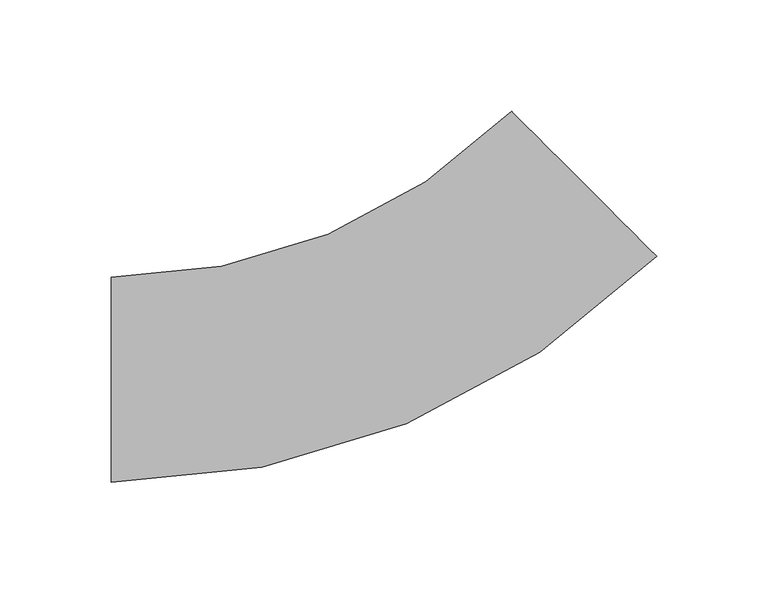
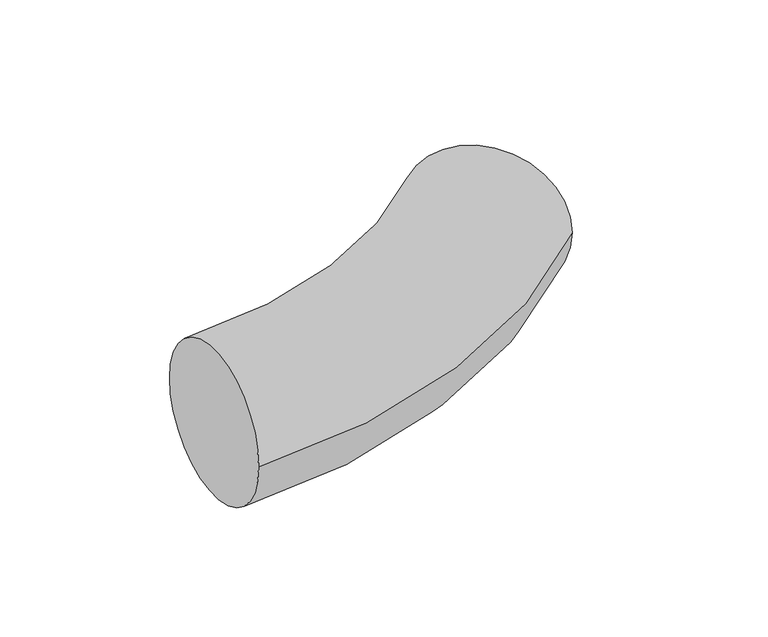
"""IFC4 building model written with IfcOpenShell, lengths in millimetres: duct segment geometry, NLRS_57_DUF_UN_Hybalans flexbend round_M&G : supply ø75 ø92 (blue)."""

from ifc_helpers import new_model, si_unit, point, frame, origin, place, context, project, spatial, circle_curve, ellipse_curve, trimmed, source, transform, mapped, element, save
from ifc_brep_helpers import plane_surface, revolved_surface, advanced_brep


def duct_segment_c730130c(model_context):
    return source(origin(), model_context, "Body", "AdvancedBrep", [
        advanced_brep(
        [(-124.2640687, -46.0, 0.0), (-124.2640687, 46.0, 0.0), (120.3948776, 55.3410537, 0.0), (55.3410537, 120.3948776, 0.0)],
        [
            (0, 1, circle_curve(frame((-124.2640687, 0.0, 0.0), z_axis=(-1.0, 0.0, 0.0), x_axis=(0.0, 1.0, 0.0)), 46.0)),
            (1, 0, circle_curve(frame((-124.2640687, 0.0, 0.0), z_axis=(-1.0, 0.0, 0.0), x_axis=(0.0, 1.0, 0.0)), 46.0)),
            (2, 3, circle_curve(frame((87.8679656, 87.8679656, 0.0), z_axis=(0.7071067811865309, 0.7071067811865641, 0.0), x_axis=(-0.7071067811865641, 0.7071067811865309, 0.0)), 46.0)),
            (3, 2, circle_curve(frame((87.8679656, 87.8679656, 0.0), z_axis=(0.7071067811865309, 0.7071067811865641, 0.0), x_axis=(-0.7071067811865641, 0.7071067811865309, 0.0)), 46.0)),
            (3, 1, circle_curve(frame((-124.2640687, 300.0, 0.0), z_axis=(0.0, 0.0, -1.0), x_axis=(0.0, -1.0, 0.0)), 254.0)),
            (0, 2, circle_curve(frame((-124.2640687, 300.0, 0.0), z_axis=(0.0, 0.0, 1.0), x_axis=(0.0, -1.0, 0.0)), 346.0)),
        ],
        [
            plane_surface(frame((-124.2640687, 0.0, 0.0), z_axis=(-1.0, 0.0, 0.0), x_axis=(0.0, 0.0, 1.0))),
            plane_surface(frame((87.8679656, 87.8679656, 0.0), z_axis=(0.7071067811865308, 0.7071067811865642, 0.0), x_axis=(0.0, 0.0, 1.0))),
            revolved_surface(trimmed(ellipse_curve(frame((-124.2640687, 0.0, 0.0), z_axis=(-1.0, 0.0, 0.0), x_axis=(0.0, 1.0, 0.0)), 46.0, 46.0), [point((-124.2640687, -46.0, 0.0))], [point((-124.2640687, 46.0, 0.0))], True, "CARTESIAN"), (-124.2640687, 300.0, 0.0), (0.0, 0.0, 1.0)),
            revolved_surface(trimmed(ellipse_curve(frame((-124.2640687, 0.0, 0.0), z_axis=(-1.0, 0.0, 0.0), x_axis=(0.0, 1.0, 0.0)), 46.0, 46.0), [point((-124.2640687, 46.0, 0.0))], [point((-124.2640687, -46.0, 0.0))], True, "CARTESIAN"), (-124.2640687, 300.0, 0.0), (0.0, 0.0, 1.0)),
        ],
        [
            (0, [[1, 2]]),
            (1, [[3, 4]]),
            (2, [[5, -1, 6, -4]]),
            (3, [[-6, -2, -5, -3]]),
        ],
    ),
    ])


if __name__ == "__main__":
    model = new_model("IFC4")
    model_context = context("Model", 3, world=origin())
    ifc_project = project(units=[si_unit("LENGTHUNIT", "METRE", prefix="MILLI")], contexts=[model_context])
    site = spatial("IfcSite", under=ifc_project)
    building = spatial("IfcBuilding", under=site)
    placement = place(None, origin())
    duct_segment_shape = duct_segment_c730130c(model_context)
    element("IfcDuctSegment", 1, ObjectType="NLRS_57_DUF_UN_Hybalans flexbend round_M&G : supply ø75 ø92 (blue)", at=placement, inside=building, context=model_context, shape_type="MappedRepresentation", body=[
        mapped(duct_segment_shape, transform((0.0, 0.0, 0.0), x_axis=(1.0, 0.0, 0.0), y_axis=(0.0, 1.0, 0.0), z_axis=(0.0, 0.0, 1.0))),
    ])
    save(model, "model.ifc")
